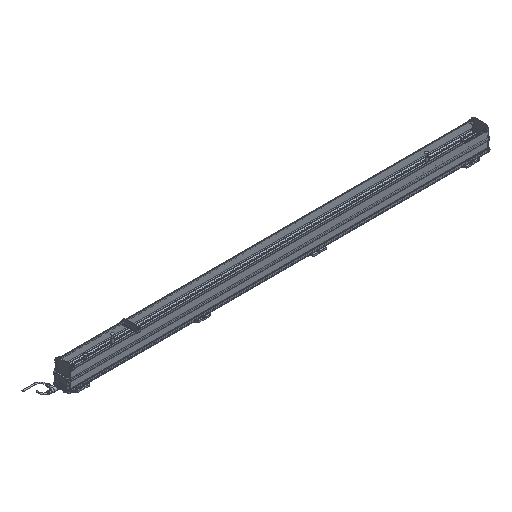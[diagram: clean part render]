
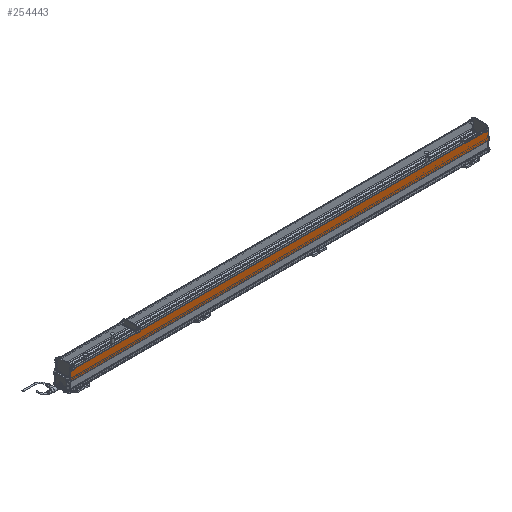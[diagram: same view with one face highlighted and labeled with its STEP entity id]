
A CAD part, isometric view. The second image highlights one B-rep face of the part: STEP entity #254443.
In plain terms, the highlighted planar face has unit normal (0, -1, 0) as drawn and (0, 1, 0) by its records, which use the part's own axes.
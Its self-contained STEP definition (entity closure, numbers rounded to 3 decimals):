
#89379=ORIENTED_EDGE('',*,*,#127226,.F.);
#89380=ORIENTED_EDGE('',*,*,#127191,.F.);
#89381=ORIENTED_EDGE('',*,*,#127225,.F.);
#89382=ORIENTED_EDGE('',*,*,#127130,.F.);
#109217=VECTOR('',#146755,1.);
#109244=VECTOR('',#146856,1.);
#109274=VECTOR('',#146950,1.);
#109275=VECTOR('',#146953,1.);
#114924=LINE('',#167367,#109217);
#114951=LINE('',#167490,#109244);
#114981=LINE('',#167556,#109274);
#114982=LINE('',#167558,#109275);
#120642=VERTEX_POINT('',#167364);
#120643=VERTEX_POINT('',#167366);
#120701=VERTEX_POINT('',#167487);
#120702=VERTEX_POINT('',#167489);
#127130=EDGE_CURVE('',#120642,#120643,#114924,.T.);
#127191=EDGE_CURVE('',#120701,#120702,#114951,.T.);
#127225=EDGE_CURVE('',#120643,#120701,#114981,.T.);
#127226=EDGE_CURVE('',#120702,#120642,#114982,.T.);
#137176=EDGE_LOOP('',(#89379,#89380,#89381,#89382));
#141866=FACE_BOUND('',#137176,.T.);
#146755=DIRECTION('',(36.287,0.,0.));
#146856=DIRECTION('',(-36.287,0.,0.));
#146950=DIRECTION('',(0.,0.,1660.));
#146951=DIRECTION('',(0.,1.,0.));
#146952=DIRECTION('',(1.,0.,0.));
#146953=DIRECTION('',(0.,0.,-1660.));
#167364=CARTESIAN_POINT('',(-29.322,15.,-1535.));
#167366=CARTESIAN_POINT('',(6.965,15.,-1535.));
#167367=CARTESIAN_POINT('',(-29.322,15.,-1535.));
#167487=CARTESIAN_POINT('',(6.965,15.,125.));
#167489=CARTESIAN_POINT('',(-29.322,15.,125.));
#167490=CARTESIAN_POINT('',(6.965,15.,125.));
#167556=CARTESIAN_POINT('',(6.965,15.,-1535.));
#167557=CARTESIAN_POINT('',(-29.322,15.,125.));
#167558=CARTESIAN_POINT('',(-29.322,15.,125.));
#245261=AXIS2_PLACEMENT_3D('',#167557,#146951,#146952);
#252593=PLANE('',#245261);
#254443=ADVANCED_FACE('',(#141866),#252593,.T.);
